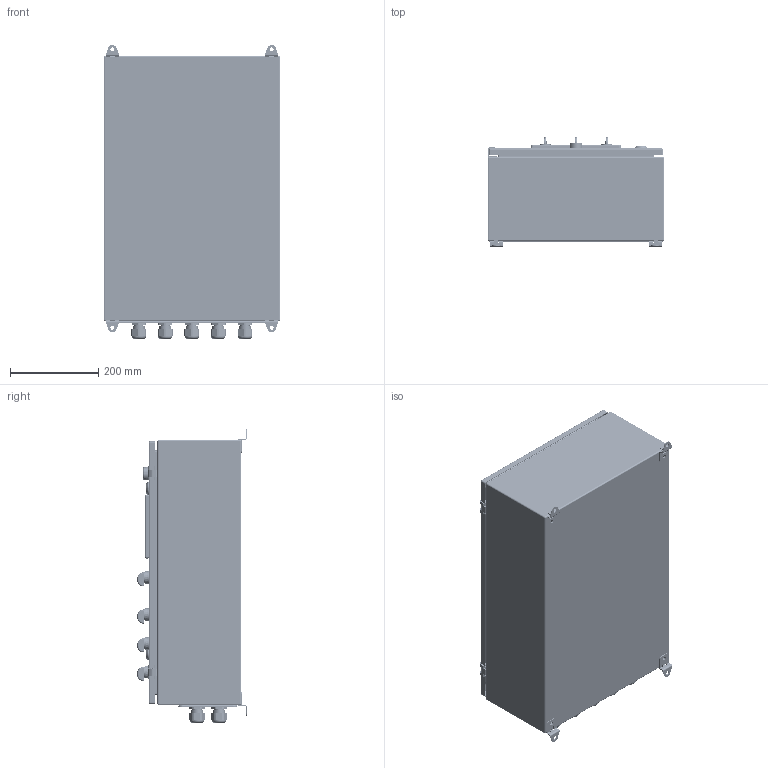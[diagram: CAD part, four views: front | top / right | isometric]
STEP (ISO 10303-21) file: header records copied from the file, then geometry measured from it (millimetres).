
FILE_DESCRIPTION(('STEP AP203'), '1');
FILE_NAME('ﾊﾎﾍﾒﾓﾐ ﾀ11 _ ', '2025-02-12T13:41:30', ('ﾝﾋﾕﾀﾐﾒ'), ('ﾝﾋﾕﾀﾐﾒ'), 'ASCON STEP Converter 1.6', 'ASCON Math Kernel', '');
FILE_SCHEMA(('CONFIG_CONTROL_DESIGN'));
Length unit declared in the file: millimetre
Products named in the file (13): ﾊﾎﾍﾒﾓﾐ ﾀ11-222-000-ﾂ00-ﾊ00; MES 60.40.21 ÑÁ Øêàô êîìïàêòíûé ðàñïðåäåëèòåëüíûé; BLS10-ADDS-024-K01 Ëàìïà AD22DS(LED)ìàòðèöà d22ìì åëåíûé 24Â AC_DC  ÈÝÊ; WB 8 Ñêîáà äëÿ ìîíòàæà ê ñòåíå; PE_PG21
Assembly tree (35 placements, depth 3):
  ﾊﾎﾍﾒﾓﾐ ﾀ11-222-000-ﾂ00-ﾊ00
    MES 60.40.21 ÑÁ Øêàô êîìïàêòíûé ðàñïðåäåëèòåëüíûé
    (unnamed)  x9
      (unnamed)
      (unnamed)
      (unnamed)
    (unnamed)
      (unnamed)
      (unnamed)
      (unnamed)
      (unnamed)
    BLS10-ADDS-024-K01 Ëàìïà AD22DS(LED)ìàòðèöà d22ìì åëåíûé 24Â AC_DC  ÈÝÊ
    (unnamed)
    WB 8 Ñêîáà äëÿ ìîíòàæà ê ñòåíå  x4
    (unnamed)
    PE_PG21  x10
Bounding box: 400 x 247.7 x 664.84 mm (x, y, z)
Volume: 2997654.2 mm3; surface area: 2693515.1 mm2
Topology: 73 solids, 111 shells, 5706 faces, 15719 edges, 10279 vertices
Faces by surface type: plane 3224, cylinder 1313, bspline 608, cone 316, torus 153, sphere 75, extrusion 17
Full cylindrical faces by diameter (mm): 1 x9, 1.3 x2, 2.5 x2, 4 x10, 4.61 x2, 5 x10, 5.5 x2, 6 x23, 6.195 x2, 6.2 x4, 6.3 x4, 6.4 x2, 6.8 x4, 7 x13, 8 x13, 8.2 x4, 8.4 x4, 9 x20, 9.9 x2, 10.05 x2, 12.5 x2, 12.55 x2, 13.5 x4, 14 x9, 16 x4, 16.25 x2, 16.45 x2, 18.5 x10, 18.6 x10, 19.6 x2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
Entity records: 175497 total; most frequent: CARTESIAN_POINT 57301, ORIENTED_EDGE 15638, DIRECTION 13746, EDGE_CURVE 7993, VERTEX_POINT 5351, AXIS2_PLACEMENT_3D 4767, VECTOR 4212, LINE 4195
